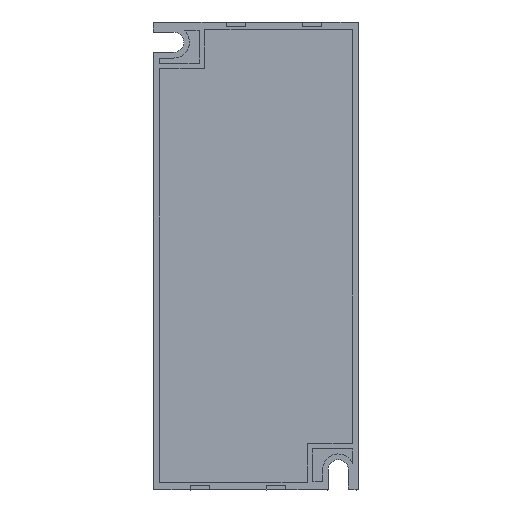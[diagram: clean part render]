
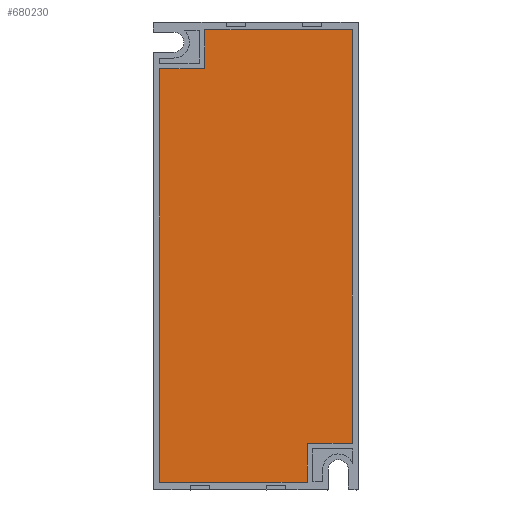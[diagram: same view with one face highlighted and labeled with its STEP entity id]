
A CAD part, front view. The second image highlights one B-rep face of the part: STEP entity #680230.
In plain terms, the highlighted planar face has unit normal (0, -1, 0).
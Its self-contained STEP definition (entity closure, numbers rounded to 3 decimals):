
#674700=CARTESIAN_POINT('',(20.2,0.,47.4));
#674710=VERTEX_POINT('',#674700);
#674740=CARTESIAN_POINT('',(20.2,0.,47.4));
#674750=DIRECTION('',(-1.,0.,0.));
#674760=VECTOR('',#674750,1.);
#674770=LINE('',#674740,#674760);
#674780=CARTESIAN_POINT('',(-10.7,0.,47.4));
#674790=VERTEX_POINT('',#674780);
#674800=EDGE_CURVE('',#674710,#674790,#674770,.T.);
#678630=CARTESIAN_POINT('',(20.2,0.,-39.2));
#678640=VERTEX_POINT('',#678630);
#678670=CARTESIAN_POINT('',(20.2,0.,47.4));
#678680=DIRECTION('',(0.,0.,-1.));
#678690=VECTOR('',#678680,1.);
#678700=LINE('',#678670,#678690);
#678710=EDGE_CURVE('',#674710,#678640,#678700,.T.);
#679440=CARTESIAN_POINT('',(0.,0.,0.));
#679450=DIRECTION('',(0.,1.,0.));
#679460=DIRECTION('',(0.,0.,-1.));
#679470=AXIS2_PLACEMENT_3D('',#679440,#679450,#679460);
#679480=PLANE('',#679470);
#679490=CARTESIAN_POINT('',(-11.2,0.,
39.2));
#679500=DIRECTION('',(-1.,0.,0.));
#679510=VECTOR('',#679500,1.);
#679520=LINE('',#679490,#679510);
#679530=CARTESIAN_POINT('',(-11.2,0.,39.2));
#679540=VERTEX_POINT('',#679530);
#679550=CARTESIAN_POINT('',(-20.2,0.,39.2));
#679560=VERTEX_POINT('',#679550);
#679570=EDGE_CURVE('',#679540,#679560,#679520,.T.);
#679580=ORIENTED_EDGE('',*,*,#679570,.T.);
#679590=CARTESIAN_POINT('',(-11.2,0.,39.2));
#679600=CARTESIAN_POINT('',(-11.13,0.,39.2));
#679610=CARTESIAN_POINT('',(-11.003,0.,39.227));
#679620=CARTESIAN_POINT('',(-10.837,0.,39.337));
#679630=CARTESIAN_POINT('',(-10.727,0.,39.503));
#679640=CARTESIAN_POINT('',(-10.7,0.,39.63));
#679650=CARTESIAN_POINT('',(-10.7,0.,39.7));
#679660=B_SPLINE_CURVE_WITH_KNOTS('',3,(#679590,#679600,#679610,#679620,
#679630,#679640,#679650),.UNSPECIFIED.,.F.,.F.,(4,1,1,1,4),(0.,0.25,0.5,
0.75,1.),.UNSPECIFIED.);
#679670=CARTESIAN_POINT('',(-10.7,0.,39.7));
#679680=VERTEX_POINT('',#679670);
#679690=EDGE_CURVE('',#679540,#679680,#679660,.T.);
#679700=ORIENTED_EDGE('',*,*,#679690,.F.);
#679710=CARTESIAN_POINT('',(-10.7,0.,47.4
));
#679720=DIRECTION('',(0.,0.,-1.));
#679730=VECTOR('',#679720,1.);
#679740=LINE('',#679710,#679730);
#679750=EDGE_CURVE('',#674790,#679680,#679740,.T.);
#679760=ORIENTED_EDGE('',*,*,#679750,.T.);
#679770=ORIENTED_EDGE('',*,*,#674800,.T.);
#679780=ORIENTED_EDGE('',*,*,#678710,.F.);
#679790=CARTESIAN_POINT('',(11.2,0.,
-39.2));
#679800=DIRECTION('',(1.,0.,0.));
#679810=VECTOR('',#679800,1.);
#679820=LINE('',#679790,#679810);
#679830=CARTESIAN_POINT('',(11.2,0.,-39.2));
#679840=VERTEX_POINT('',#679830);
#679850=EDGE_CURVE('',#679840,#678640,#679820,.T.);
#679860=ORIENTED_EDGE('',*,*,#679850,.T.);
#679870=CARTESIAN_POINT('',(11.2,0.,-39.2));
#679880=CARTESIAN_POINT('',(11.13,0.,-39.2));
#679890=CARTESIAN_POINT('',(11.003,0.,-39.227));
#679900=CARTESIAN_POINT('',(10.837,0.,-39.337));
#679910=CARTESIAN_POINT('',(10.727,0.,-39.503));
#679920=CARTESIAN_POINT('',(10.7,0.,-39.63));
#679930=CARTESIAN_POINT('',(10.7,0.,-39.7));
#679940=B_SPLINE_CURVE_WITH_KNOTS('',3,(#679870,#679880,#679890,#679900,
#679910,#679920,#679930),.UNSPECIFIED.,.F.,.F.,(4,1,1,1,4),(0.,0.25,0.5,
0.75,1.),.UNSPECIFIED.);
#679950=CARTESIAN_POINT('',(10.7,0.,-39.7));
#679960=VERTEX_POINT('',#679950);
#679970=EDGE_CURVE('',#679840,#679960,#679940,.T.);
#679980=ORIENTED_EDGE('',*,*,#679970,.F.);
#679990=CARTESIAN_POINT('',(10.7,0.,-47.4));
#680000=DIRECTION('',(0.,0.,1.));
#680010=VECTOR('',#680000,1.);
#680020=LINE('',#679990,#680010);
#680030=CARTESIAN_POINT('',(10.7,0.,-47.4));
#680040=VERTEX_POINT('',#680030);
#680050=EDGE_CURVE('',#680040,#679960,#680020,.T.);
#680060=ORIENTED_EDGE('',*,*,#680050,.T.);
#680070=CARTESIAN_POINT('',(-20.2,0.,-47.4));
#680080=DIRECTION('',(1.,0.,0.));
#680090=VECTOR('',#680080,1.);
#680100=LINE('',#680070,#680090);
#680110=CARTESIAN_POINT('',(-20.2,0.,-47.4));
#680120=VERTEX_POINT('',#680110);
#680130=EDGE_CURVE('',#680120,#680040,#680100,.T.);
#680140=ORIENTED_EDGE('',*,*,#680130,.T.);
#680150=CARTESIAN_POINT('',(-20.2,0.,-47.4));
#680160=DIRECTION('',(0.,0.,1.));
#680170=VECTOR('',#680160,1.);
#680180=LINE('',#680150,#680170);
#680190=EDGE_CURVE('',#680120,#679560,#680180,.T.);
#680200=ORIENTED_EDGE('',*,*,#680190,.F.);
#680210=EDGE_LOOP('',(#680200,#680140,#680060,#679980,#679860,#679780,
#679770,#679760,#679700,#679580));
#680220=FACE_OUTER_BOUND('',#680210,.T.);
#680230=ADVANCED_FACE('',(#680220),#679480,.F.);
